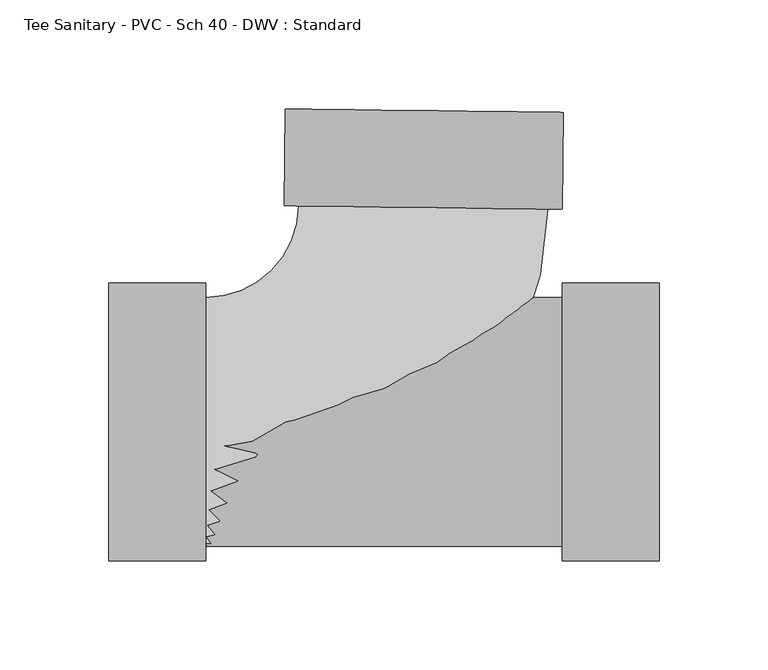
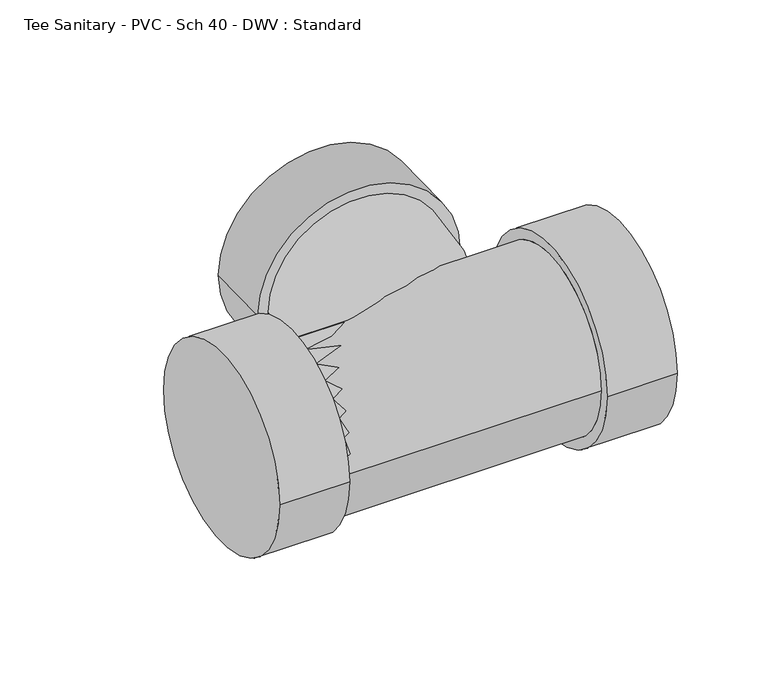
"""IFC4 building model written with IfcOpenShell, lengths in millimetres: pipe fitting geometry, Tee Sanitary - PVC - Sch 40 - DWV : Standard."""

from ifc_helpers import new_model, si_unit, point, frame, origin, place, context, project, spatial, circle_curve, ellipse_curve, trimmed, source, transform, mapped, element, save
from ifc_brep_helpers import plane_surface, cylinder_surface, revolved_surface, advanced_brep


def tee_sanitary_pvc_sch_40_dwv_standard_0efe078d(model_context):
    return source(origin(), model_context, "Body", "AdvancedBrep", [
        advanced_brep(
        [(-98.425, 57.15, 0.0), (-98.425, -57.15, 0.0), (58.3880892, 97.69562, 0.0), (-55.9028009, 99.1386906, 0.0), (65.5527569, 142.0586998, 0.0), (-61.9450804, 143.6685253, 0.0), (64.9915628, 97.6122426, 0.0), (-62.5062745, 99.222068, 0.0)],
        [
            (0, 1, circle_curve(frame((-98.425, 0.0, 0.0), z_axis=(-1.0, 0.0, 0.0), x_axis=(0.0, -1.0, 0.0)), 57.15)),
            (1, 0, circle_curve(frame((-98.425, 0.0, 0.0), z_axis=(-1.0, 0.0, 0.0), x_axis=(0.0, -1.0, 0.0)), 57.15)),
            (1, 2, circle_curve(frame((-98.425, 99.6755885, 0.0), z_axis=(0.0, 0.0, 1.0), x_axis=(0.0, -1.0, 0.0)), 156.8255885)),
            (2, 3, circle_curve(frame((1.2426441, 98.4171553, 0.0), z_axis=(-0.012625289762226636, -0.9999202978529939, 0.0), x_axis=(0.9999202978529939, -0.012625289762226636, 0.0)), 57.15)),
            (3, 0, circle_curve(frame((-98.425, 99.6755885, 0.0), z_axis=(0.0, 0.0, -1.0), x_axis=(0.0, -1.0, 0.0)), 42.5255885)),
            (3, 2, circle_curve(frame((1.2426441, 98.4171553, 0.0), z_axis=(-0.012625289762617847, -0.9999202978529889, 0.0), x_axis=(0.9999202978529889, -0.012625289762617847, 0.0)), 57.15)),
            (4, 5, circle_curve(frame((1.8038383, 142.8636126, 0.0), z_axis=(0.012625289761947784, 0.9999202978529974, 0.0), x_axis=(-0.9999202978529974, 0.012625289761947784, 0.0)), 63.754)),
            (5, 4, circle_curve(frame((1.8038383, 142.8636126, 0.0), z_axis=(0.012625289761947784, 0.9999202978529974, 0.0), x_axis=(-0.9999202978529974, 0.012625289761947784, 0.0)), 63.754)),
            (6, 7, circle_curve(frame((1.2426441, 98.4171553, 0.0), z_axis=(-0.012625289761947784, -0.9999202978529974, 0.0), x_axis=(-0.9999202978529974, 0.012625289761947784, 0.0)), 63.754)),
            (7, 6, circle_curve(frame((1.2426441, 98.4171553, 0.0), z_axis=(-0.012625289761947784, -0.9999202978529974, 0.0), x_axis=(-0.9999202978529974, 0.012625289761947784, 0.0)), 63.754)),
            (5, 7),
            (6, 4),
        ],
        [
            plane_surface(frame((-98.425, 0.0, 0.0), z_axis=(-1.0, 0.0, 0.0), x_axis=(0.0, 0.0, 1.0))),
            revolved_surface(trimmed(ellipse_curve(frame((-98.425, 0.0, 0.0), z_axis=(1.0, 0.0, 0.0), x_axis=(0.0, -1.0, 0.0)), 57.15, 57.15), [point((-98.425, 57.15, 0.0))], [point((-98.425, -57.15, 0.0))], True, "CARTESIAN"), (-98.425, 99.6755885, 0.0), (0.0, 0.0, -1.0)),
            revolved_surface(trimmed(ellipse_curve(frame((-98.425, 0.0, 0.0), z_axis=(1.0, 0.0, 0.0), x_axis=(0.0, -1.0, 0.0)), 57.15, 57.15), [point((-98.425, -57.15, 0.0))], [point((-98.425, 57.15, 0.0))], True, "CARTESIAN"), (-98.425, 99.6755885, 0.0), (0.0, 0.0, -1.0)),
            plane_surface(frame((1.8038383, 142.8636126, 0.0), z_axis=(0.012625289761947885, 0.9999202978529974, 0.0), x_axis=(0.0, 0.0, 1.0))),
            plane_surface(frame((1.2426441, 98.4171553, 0.0), z_axis=(-0.012625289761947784, -0.9999202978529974, 0.0), x_axis=(0.0, 0.0, 1.0))),
            cylinder_surface(frame((1.8038383, 142.8636126, 0.0), z_axis=(0.012625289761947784, 0.9999202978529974, 0.0), x_axis=(-0.9999202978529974, 0.012625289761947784, 0.0)), 63.754),
        ],
        [
            (0, [[1, 2]]),
            (1, [[3, 4, 5, -2]]),
            (2, [[-5, 6, -3, -1]]),
            (3, [[7, 8]]),
            (4, [[9, 10], [-6, -4]]),
            (5, [[11, -9, 12, -8]]),
            (5, [[-12, -10, -11, -7]]),
        ],
    ),
        advanced_brep(
        [(-98.425, 57.15, 0.0), (-98.425, -57.15, 0.0), (64.9915628, -57.15, 0.0), (64.9915628, 57.15, 0.0), (64.9915628, 63.754, 0.0), (64.9915628, -63.754, 0.0), (109.4415628, 63.754, 0.0), (109.4415628, -63.754, 0.0), (-142.875, 63.754, 0.0), (-142.875, -63.754, 0.0), (-98.425, 63.754, 0.0), (-98.425, -63.754, 0.0)],
        [
            (0, 1, circle_curve(frame((-98.425, 0.0, 0.0), z_axis=(1.0, 0.0, 0.0), x_axis=(0.0, -1.0, 0.0)), 57.15)),
            (1, 2),
            (2, 3, circle_curve(frame((64.9915628, 0.0, 0.0), z_axis=(-1.0, 0.0, 0.0), x_axis=(0.0, -1.0, 0.0)), 57.15)),
            (3, 0),
            (3, 2, circle_curve(frame((64.9915628, 0.0, 0.0), z_axis=(-1.0, 0.0, 0.0), x_axis=(0.0, -1.0, 0.0)), 57.15)),
            (1, 0, circle_curve(frame((-98.425, 0.0, 0.0), z_axis=(1.0, 0.0, 0.0), x_axis=(0.0, -1.0, 0.0)), 57.15)),
            (4, 5, circle_curve(frame((64.9915628, 0.0, 0.0), z_axis=(-1.0, 0.0, 0.0), x_axis=(0.0, -1.0, 0.0)), 63.754)),
            (5, 4, circle_curve(frame((64.9915628, 0.0, 0.0), z_axis=(-1.0, 0.0, 0.0), x_axis=(0.0, -1.0, 0.0)), 63.754)),
            (6, 7, circle_curve(frame((109.4415628, 0.0, 0.0), z_axis=(1.0, 0.0, 0.0), x_axis=(0.0, -1.0, 0.0)), 63.754)),
            (7, 6, circle_curve(frame((109.4415628, 0.0, 0.0), z_axis=(1.0, 0.0, 0.0), x_axis=(0.0, -1.0, 0.0)), 63.754)),
            (5, 7),
            (6, 4),
            (8, 9, circle_curve(frame((-142.875, 0.0, 0.0), z_axis=(-1.0, 0.0, 0.0), x_axis=(0.0, -1.0, 0.0)), 63.754)),
            (9, 8, circle_curve(frame((-142.875, 0.0, 0.0), z_axis=(-1.0, 0.0, 0.0), x_axis=(0.0, -1.0, 0.0)), 63.754)),
            (10, 11, circle_curve(frame((-98.425, 0.0, 0.0), z_axis=(1.0, 0.0, 0.0), x_axis=(0.0, -1.0, 0.0)), 63.754)),
            (11, 10, circle_curve(frame((-98.425, 0.0, 0.0), z_axis=(1.0, 0.0, 0.0), x_axis=(0.0, -1.0, 0.0)), 63.754)),
            (9, 11),
            (10, 8),
        ],
        [
            cylinder_surface(frame((-98.425, 0.0, 0.0), z_axis=(-1.0, 0.0, 0.0), x_axis=(0.0, -1.0, 0.0)), 57.15),
            plane_surface(frame((64.9915628, 0.0, 0.0), z_axis=(-1.0, 0.0, 0.0), x_axis=(0.0, 0.0, 1.0))),
            plane_surface(frame((109.4415628, 0.0, 0.0), z_axis=(1.0, 0.0, 0.0), x_axis=(0.0, 0.0, 1.0))),
            cylinder_surface(frame((64.9915628, 0.0, 0.0), z_axis=(-1.0, 0.0, 0.0), x_axis=(0.0, -1.0, 0.0)), 63.754),
            plane_surface(frame((-142.875, 0.0, 0.0), z_axis=(-1.0, 0.0, 0.0), x_axis=(0.0, 0.0, 1.0))),
            plane_surface(frame((-98.425, 0.0, 0.0), z_axis=(1.0, 0.0, 0.0), x_axis=(0.0, 0.0, 1.0))),
            cylinder_surface(frame((-142.875, 0.0, 0.0), z_axis=(-1.0, 0.0, 0.0), x_axis=(0.0, -1.0, 0.0)), 63.754),
        ],
        [
            (0, [[1, 2, 3, 4]]),
            (0, [[5, -2, 6, -4]]),
            (1, [[7, 8], [-5, -3]]),
            (2, [[9, 10]]),
            (3, [[11, -9, 12, -8]]),
            (3, [[-12, -10, -11, -7]]),
            (4, [[13, 14]]),
            (5, [[15, 16], [-6, -1]]),
            (6, [[17, -15, 18, -14]]),
            (6, [[-18, -16, -17, -13]]),
        ],
    ),
    ])


if __name__ == "__main__":
    model = new_model("IFC4")
    model_context = context("Model", 3, world=origin())
    ifc_project = project(units=[si_unit("LENGTHUNIT", "METRE", prefix="MILLI")], contexts=[model_context])
    site = spatial("IfcSite", under=ifc_project)
    building = spatial("IfcBuilding", under=site)
    placement = place(None, origin())
    tee_sanitary_pvc_sch_40_dwv_standard_shape = tee_sanitary_pvc_sch_40_dwv_standard_0efe078d(model_context)
    element("IfcPipeFitting", 1, ObjectType="Tee Sanitary - PVC - Sch 40 - DWV : Standard", at=placement, inside=building, context=model_context, shape_type="MappedRepresentation", body=[
        mapped(tee_sanitary_pvc_sch_40_dwv_standard_shape, transform((0.0, 0.0, 0.0), x_axis=(1.0, 0.0, 0.0), y_axis=(0.0, 1.0, 0.0), z_axis=(0.0, 0.0, 1.0))),
    ])
    save(model, "model.ifc")
